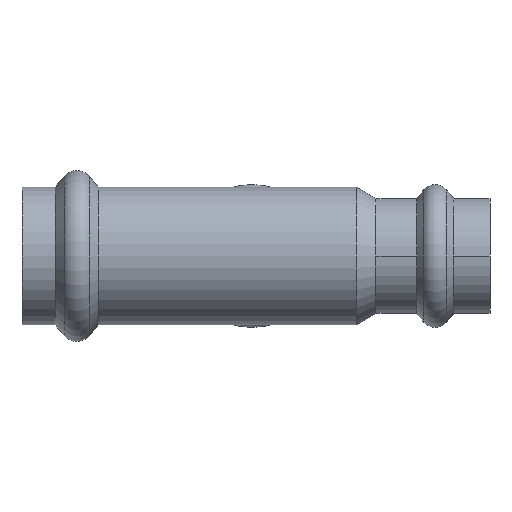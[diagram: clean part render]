
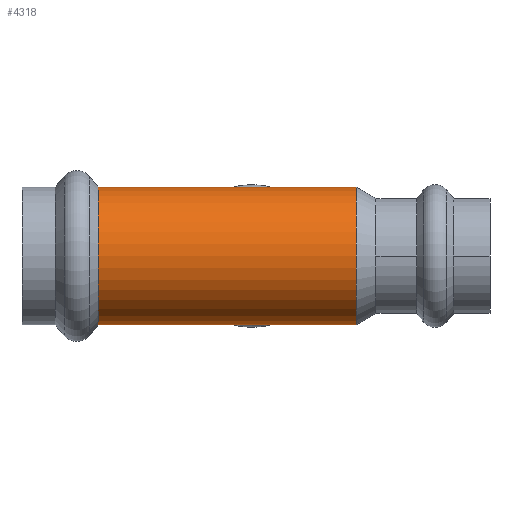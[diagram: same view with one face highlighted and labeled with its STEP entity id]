
A CAD part, front view. The second image highlights one B-rep face of the part: STEP entity #4318.
In plain terms, the highlighted cylindrical face has radius 12.6 mm (diameter 25.2 mm), a partial arc.
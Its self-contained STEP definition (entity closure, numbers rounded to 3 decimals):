
#47 = DIRECTION ( 'NONE',  ( -1., 0., 0. ) ) ;
#317 = EDGE_LOOP ( 'NONE', ( #940, #2673, #2595, #1866 ) ) ;
#324 = DIRECTION ( 'NONE',  ( 0., 0., 1. ) ) ;
#361 = VERTEX_POINT ( 'NONE', #2656 ) ;
#551 = EDGE_CURVE ( 'NONE', #3799, #361, #2202, .T. ) ;
#639 = DIRECTION ( 'NONE',  ( 0., 0., 1. ) ) ;
#674 = CARTESIAN_POINT ( 'NONE',  ( -28.072, 0., -12.6 ) ) ;
#780 = CARTESIAN_POINT ( 'NONE',  ( 19.021, 0., 0. ) ) ;
#940 = ORIENTED_EDGE ( 'NONE', *, *, #2282, .F. ) ;
#1012 = DIRECTION ( 'NONE',  ( 1., 0., 0. ) ) ;
#1127 = AXIS2_PLACEMENT_3D ( 'NONE', #4319, #2413, #324 ) ;
#1237 = CARTESIAN_POINT ( 'NONE',  ( -58.611, 0., 12.6 ) ) ;
#1423 = EDGE_CURVE ( 'NONE', #3799, #3528, #3650, .T. ) ;
#1509 = CARTESIAN_POINT ( 'NONE',  ( -58.611, 0., -12.6 ) ) ;
#1866 = ORIENTED_EDGE ( 'NONE', *, *, #3819, .T. ) ;
#2166 = DIRECTION ( 'NONE',  ( 0., 0., 1. ) ) ;
#2202 = LINE ( 'NONE', #1237, #3580 ) ;
#2282 = EDGE_CURVE ( 'NONE', #3528, #3824, #3557, .T. ) ;
#2413 = DIRECTION ( 'NONE',  ( 1., 0., 0. ) ) ;
#2476 = DIRECTION ( 'NONE',  ( -1., 0., 0. ) ) ;
#2573 = CARTESIAN_POINT ( 'NONE',  ( 19.021, 0., 12.6 ) ) ;
#2591 = CIRCLE ( 'NONE', #1127, 12.6 ) ;
#2595 = ORIENTED_EDGE ( 'NONE', *, *, #551, .T. ) ;
#2656 = CARTESIAN_POINT ( 'NONE',  ( -28.072, 0., 12.6 ) ) ;
#2673 = ORIENTED_EDGE ( 'NONE', *, *, #1423, .F. ) ;
#2838 = AXIS2_PLACEMENT_3D ( 'NONE', #780, #1012, #639 ) ;
#3169 = CYLINDRICAL_SURFACE ( 'NONE', #4128, 12.6 ) ;
#3203 = DIRECTION ( 'NONE',  ( -1., 0., 0. ) ) ;
#3528 = VERTEX_POINT ( 'NONE', #4354 ) ;
#3557 = LINE ( 'NONE', #1509, #4305 ) ;
#3580 = VECTOR ( 'NONE', #3203, 1000. ) ;
#3650 = CIRCLE ( 'NONE', #2838, 12.6 ) ;
#3741 = CARTESIAN_POINT ( 'NONE',  ( -58.611, 0., 0. ) ) ;
#3799 = VERTEX_POINT ( 'NONE', #2573 ) ;
#3819 = EDGE_CURVE ( 'NONE', #361, #3824, #2591, .T. ) ;
#3824 = VERTEX_POINT ( 'NONE', #674 ) ;
#4128 = AXIS2_PLACEMENT_3D ( 'NONE', #3741, #2476, #2166 ) ;
#4147 = FACE_OUTER_BOUND ( 'NONE', #317, .T. ) ;
#4305 = VECTOR ( 'NONE', #47, 1000. ) ;
#4318 = ADVANCED_FACE ( 'NONE', ( #4147 ), #3169, .T. ) ;
#4319 = CARTESIAN_POINT ( 'NONE',  ( -28.072, 0., 0. ) ) ;
#4354 = CARTESIAN_POINT ( 'NONE',  ( 19.021, 0., -12.6 ) ) ;
